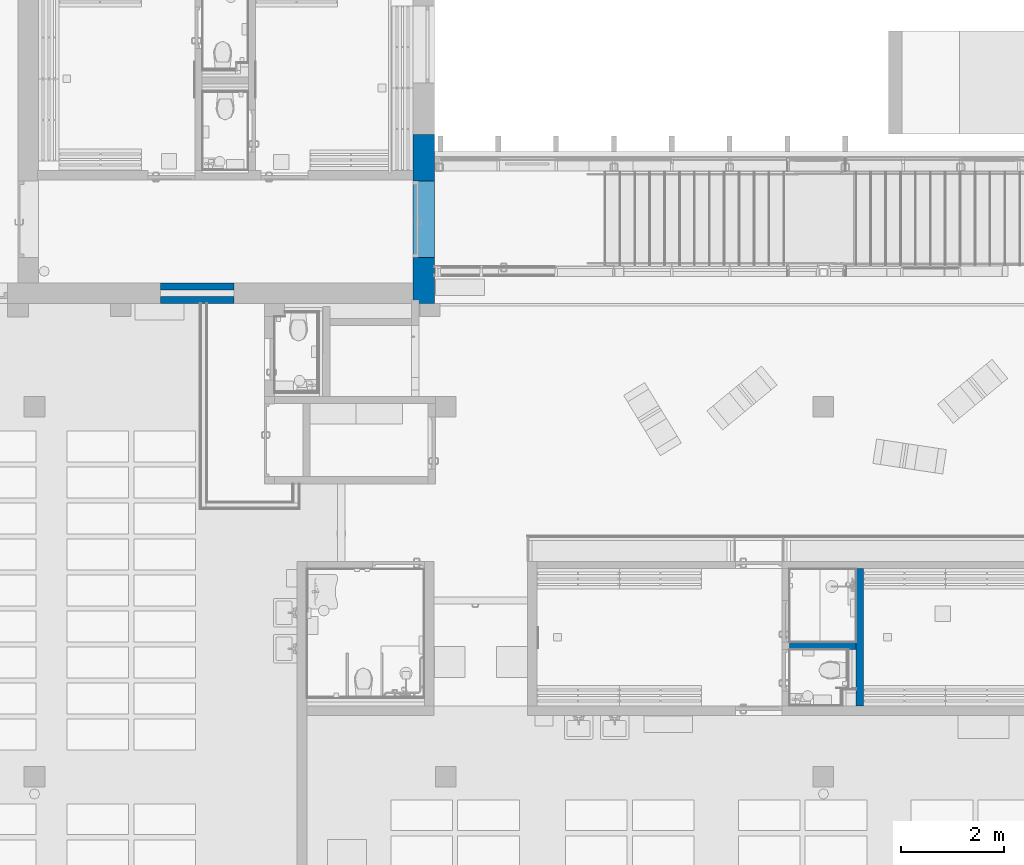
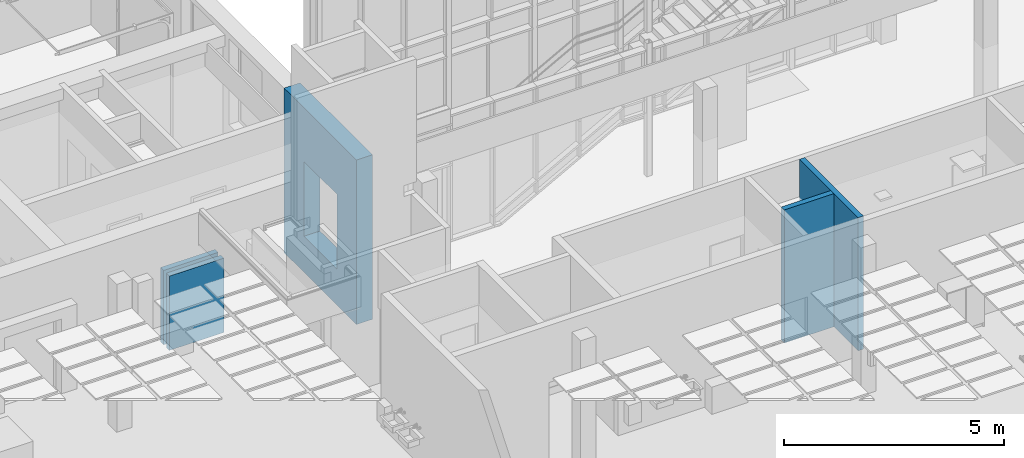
# One storey, part 127 of 301: 5 walls, 1 opening.
"""IFC2X3 building model written with IfcOpenShell, lengths in millimetres."""

from ifc_helpers import new_model, entity, si_unit, converted_unit, derived_unit, money_unit, direction, frame, origin_with_axes, place, context, subcontext, project, spatial, faceted_brep, material, type_object, element, save


model = new_model("IFC2X3")

# Units and contexts
model_context = context("Model", 3, precision=0.01, world=origin_with_axes(), true_north=direction((0.0, 1.0)))
body_context = subcontext(model_context, "Body", "Model", "MODEL_VIEW")
ifc_project = project(units=[si_unit("LENGTHUNIT", "METRE", prefix="MILLI"), si_unit("AREAUNIT", "SQUARE_METRE"), si_unit("VOLUMEUNIT", "CUBIC_METRE"), converted_unit("PLANEANGLEUNIT", "DEGREE", entity("IfcPlaneAngleMeasure", 0.0174532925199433), si_unit("PLANEANGLEUNIT", "RADIAN"), dimensions=[0, 0, 0, 0, 0, 0, 0]), money_unit("EUR"), converted_unit("TIMEUNIT", "Year", entity("IfcTimeMeasure", 31557600.0), si_unit("TIMEUNIT", "SECOND"), dimensions=[0, 0, 1, 0, 0, 0, 0]), si_unit("MASSUNIT", "GRAM", prefix="KILO"), si_unit("THERMODYNAMICTEMPERATUREUNIT", "DEGREE_CELSIUS"), si_unit("LUMINOUSINTENSITYUNIT", "LUMEN"), si_unit("ENERGYUNIT", "JOULE", prefix="MEGA"), derived_unit("THERMALCONDUCTANCEUNIT", [(si_unit("POWERUNIT", "WATT"), 1), (si_unit("LENGTHUNIT", "METRE"), -1), (si_unit("THERMODYNAMICTEMPERATUREUNIT", "KELVIN"), -1)]), derived_unit("SPECIFICHEATCAPACITYUNIT", [(si_unit("ENERGYUNIT", "JOULE"), 1), (si_unit("MASSUNIT", "GRAM", prefix="KILO"), -1), (si_unit("THERMODYNAMICTEMPERATUREUNIT", "KELVIN"), -1)]), derived_unit("MASSDENSITYUNIT", [(si_unit("MASSUNIT", "GRAM", prefix="KILO"), 1), (si_unit("VOLUMEUNIT", "CUBIC_METRE"), -1)])], contexts=[model_context])

# Site, building, storey
site_placement = place(None, frame((0.0, 0.0, 8650.0), z_axis=(0.0, 0.0, 1.0), x_axis=(1.0, 0.0, 0.0)))
site = spatial("IfcSite", under=ifc_project, at=site_placement, Name="43301:001:0844", CompositionType="ELEMENT")
building_placement = place(site_placement, origin_with_axes())
building = spatial("IfcBuilding", under=site, at=building_placement, Name="Kuressaare Ametikooli tuulikute mehaanikute õppekorpus", CompositionType="ELEMENT")
storey_placement = place(building_placement, origin_with_axes())
storey = spatial("IfcBuildingStorey", under=building, at=storey_placement, Name="1.korrus", CompositionType="ELEMENT", Elevation=0.0)

# Walls
ifc_material_1 = material(Name="Betoonõõnesplokk")
wall_type_1 = type_object("IfcWallType", Name="SS-1.2 140", PredefinedType="NOTDEFINED")
wall_1_placement = place(storey_placement, frame((98321.31648170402, 25783.06892395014, 0.0), z_axis=(0.0, 0.0, 1.0), x_axis=(1.0, 0.0, 0.0)))
element("IfcWall", 1, at=wall_1_placement, inside=storey, type_object=wall_type_1, material=ifc_material_1, Name="Sisesein", context=body_context, shape_type="Brep", body=[
    faceted_brep([(0.0, 0.0, 2060.0), (1430.000000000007, 0.0, 2060.0), (1430.000000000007, 140.0000000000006, 2060.0), (0.0, 140.0000000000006, 2060.0), (0.0, 0.0, 0.0), (1430.000000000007, 0.0, 0.0), (1430.000000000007, 140.0000000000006, 0.0), (0.0, 140.0000000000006, 0.0)], [[[0, 1, 2, 3]], [[4, 5, 1, 0]], [[2, 1, 5, 6]], [[3, 2, 6, 7]], [[4, 0, 3, 7]], [[7, 6, 5, 4]]]),
])
wall_2_placement = place(storey_placement, frame((98321.31648170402, 26183.06892395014, 0.0), z_axis=(0.0, 0.0, 1.0), x_axis=(1.0, 0.0, 0.0)))
element("IfcWall", 2, at=wall_2_placement, inside=storey, type_object=wall_type_1, material=ifc_material_1, Name="Sisesein", context=body_context, shape_type="Brep", body=[
    faceted_brep([(0.0, 0.0, 0.0), (1430.000000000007, 0.0, 0.0), (1430.000000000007, -140.0000000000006, 0.0), (0.0, -140.0000000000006, 0.0), (0.0, 0.0, 2060.0), (1430.000000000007, 0.0, 2060.0), (1430.000000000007, -140.0000000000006, 2060.0), (0.0, -140.0000000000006, 2060.0)], [[[0, 1, 2, 3]], [[4, 5, 1, 0]], [[2, 1, 5, 6]], [[3, 2, 6, 7]], [[4, 0, 3, 7]], [[7, 6, 5, 4]]]),
])
wall_3_placement = place(storey_placement, frame((111855.5182098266, 17954.81216921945, 0.0), z_axis=(0.0, 0.0, 1.0), x_axis=(-2.221017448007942e-06, 0.9999999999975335, 0.0)))
element("IfcWall", 3, at=wall_3_placement, inside=storey, type_object=wall_type_1, material=ifc_material_1, Name="Sisesein", context=body_context, shape_type="Brep", body=[
    faceted_brep([(2670.024400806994, 0.0, 0.0), (2670.024400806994, 0.0, 3690.0), (2670.024109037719, -139.9999999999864, 3690.0), (2670.024109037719, -139.9999999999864, 0.0), (0.0, 0.0, 0.0), (0.0, 0.0, 3690.0), (0.0, -140.0000000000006, 3690.0), (0.0, -140.0000000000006, 0.0)], [[[0, 1, 2, 3]], [[4, 5, 1, 0]], [[5, 6, 2, 1]], [[3, 2, 6, 7]], [[7, 4, 0, 3]], [[7, 6, 5, 4]]]),
])
wall_4_placement = place(storey_placement, frame((111855.5124538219, 19054.8358599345, 0.0), z_axis=(0.0, 0.0, 1.0), x_axis=(-0.9999999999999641, -2.679454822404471e-07, 0.0)))
element("IfcWall", 4, at=wall_4_placement, inside=storey, type_object=wall_type_1, material=ifc_material_1, Name="Sisesein", context=body_context, shape_type="Brep", body=[
    faceted_brep([(1300.000113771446, -140.0000000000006, 0.0), (1300.000113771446, -140.0000000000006, 3690.0), (-0.00303940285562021, -139.999999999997, 3690.0), (-0.00303940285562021, -139.999999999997, 0.0), (1300.000117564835, 0.0, 0.0), (1300.000117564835, 0.0, 3690.0), (-0.003312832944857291, 0.0, 3690.0), (-0.003312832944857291, 0.0, 0.0)], [[[0, 1, 2, 3]], [[4, 5, 1, 0]], [[5, 6, 2, 1]], [[3, 2, 6, 7]], [[3, 7, 4, 0]], [[7, 6, 5, 4]]]),
])

# Wall, opening
ifc_material_2 = material(Name="GENEERILINE - KONSTRUKTRIOON")
wall_type_2 = type_object("IfcWallType", Name="GENEERILINE - KONSTRUKTRIOON 420", PredefinedType="NOTDEFINED")
wall_5_placement = place(storey_placement, frame((103647.5122070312, 29074.07885965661, -1000.0), z_axis=(0.0, 0.0, 1.0), x_axis=(0.0, -1.0, 0.0)))
wall_5 = element("IfcWall", 5, at=wall_5_placement, inside=storey, type_object=wall_type_2, material=ifc_material_2, Name="VS-XX", context=body_context, shape_type="Brep", body=[
    faceted_brep([(3291.009935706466, -420.0000000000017, 0.0), (3291.009935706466, -420.0000000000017, 4560.000000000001), (0.0, -420.0000000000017, 4560.000000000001), (0.0, -420.0000000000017, 0.0), (2394.168199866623, -420.0000000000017, 1000.0), (904.1681998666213, -420.0000000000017, 1000.0), (904.1681998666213, -420.0000000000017, 3070.0), (2394.168199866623, -420.0000000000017, 3070.0), (3291.009935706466, 0.0, 4560.000000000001), (3291.009935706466, 0.0, 0.0), (0.0, 0.0, 4560.000000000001), (0.0, 0.0, 0.0), (2394.168199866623, 0.0, 1000.0), (904.1681998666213, 0.0, 1000.0), (904.1681998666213, 0.0, 3070.0), (2394.168199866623, 0.0, 3070.0)], [[[0, 1, 2, 3], [4, 5, 6, 7]], [[8, 1, 0, 9]], [[1, 8, 10, 2]], [[3, 2, 10, 11]], [[9, 0, 3, 11]], [[12, 13, 5, 4]], [[13, 14, 6, 5]], [[14, 15, 7, 6]], [[15, 12, 4, 7]], [[8, 9, 11, 10], [12, 15, 14, 13]]]),
])
opening_placement = place(wall_5_placement, frame((1649.168199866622, 0.0, 1000.0), z_axis=(0.0, 0.0, 1.0), x_axis=(1.0, 0.0, 0.0)))
element("IfcOpeningElement", 6, at=opening_placement, cuts=wall_5, Name="TU10+5,EI120", context=body_context, shape_type="Brep", body=[
    faceted_brep([(745.000000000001, 1.000000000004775, 2070.0), (745.000000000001, 1.000000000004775, 0.0), (-745.000000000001, 1.000000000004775, 0.0), (-745.000000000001, 1.000000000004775, 2070.0), (745.000000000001, -421.0000000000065, 2070.0), (745.000000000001, -421.0000000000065, 0.0), (-745.000000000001, -421.0000000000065, 0.0), (-745.000000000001, -421.0000000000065, 2070.0)], [[[0, 1, 2, 3]], [[4, 5, 1, 0]], [[5, 6, 2, 1]], [[6, 7, 3, 2]], [[7, 4, 0, 3]], [[6, 5, 4, 7]]]),
])

save(model, "model.ifc")
